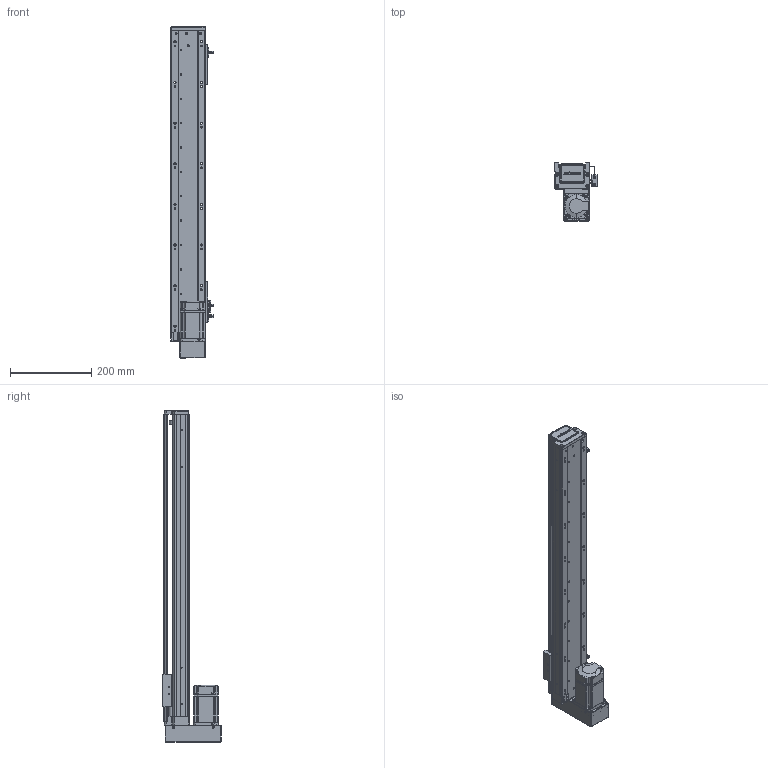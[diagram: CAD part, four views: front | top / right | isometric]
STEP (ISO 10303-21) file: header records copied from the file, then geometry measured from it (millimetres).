
FILE_DESCRIPTION (( 'STEP AP203' ), '1' );
FILE_NAME ('RY80-L1620-300-BK.SLDASM_600.step', '2021-02-20T07:10:49', ( '盈信电脑' ), ( '东莞市道滘镇水果街19号' ), 'SwSTEP 2.0', 'SolidWorks 2012', '' );
FILE_SCHEMA (( 'CONFIG_CONTROL_DESIGN' ));
Products named in the file (15): RY80狟殏俋欶; RY80-L1620-300-BK.SLDASM_600; 滅袉蝶18-24; 1; RY80狟殏萇儂假蚾啣; 侂狟200W萇儂; RY80转接电机端支撑座; T倰羞; RY80俋离覜茼え; 覜茼ん672; 滅袉蝶18-10; RY80綴裔啣; RY80臏賑輸; RY80-300蛌諉倰第奻裔啣-BK_600; RY80-300蛌諉倰第菁釱-BK_600
Assembly tree (17 placements, depth 3):
  RY80-L1620-300-BK.SLDASM_600
    RY80-300蛌諉倰第菁釱-BK_600
    RY80臏賑輸
    RY80-300蛌諉倰第奻裔啣-BK_600
    RY80綴裔啣
    滅袉蝶18-10
    T倰羞  x2
    覜茼ん672  x3
    RY80俋离覜茼え
    RY80转接电机端支撑座
    侂狟200W萇儂
      1
    RY80狟殏萇儂假蚾啣
    RY80狟殏俋欶
    滅袉蝶18-24
Bounding box: 103.7 x 144 x 817 mm (x, y, z)
Volume: 1612364.1 mm3; surface area: 632580.5 mm2
Topology: 16 solids, 16 shells, 2211 faces, 6119 edges, 3967 vertices
Faces by surface type: plane 1180, cylinder 833, cone 136, bspline 62
Entity records: 71157 total; most frequent: CARTESIAN_POINT 18676, ORIENTED_EDGE 10934, DIRECTION 10076, EDGE_CURVE 5467, VERTEX_POINT 3583, AXIS2_PLACEMENT_3D 3381, VECTOR 3314, LINE 3314
